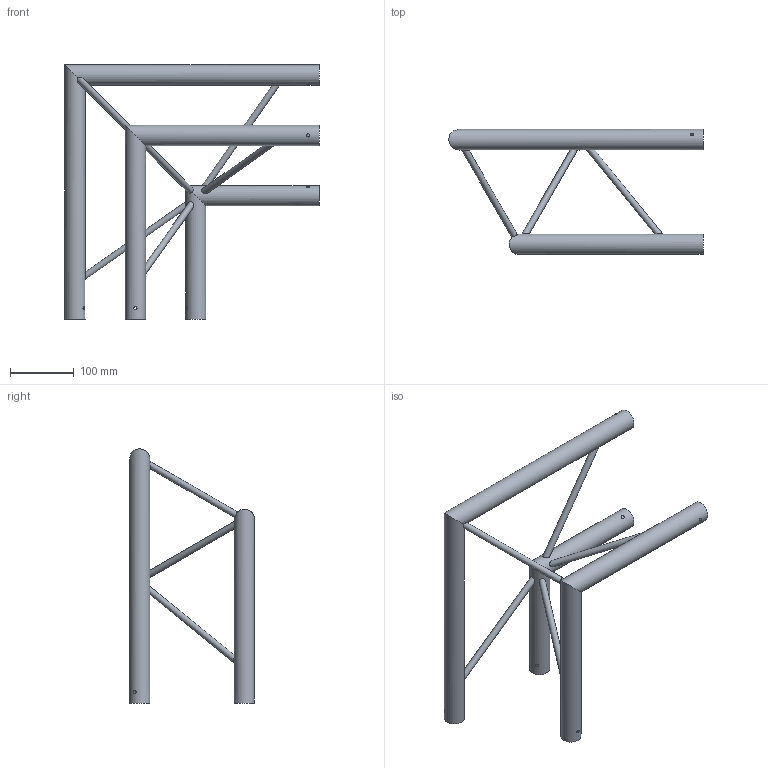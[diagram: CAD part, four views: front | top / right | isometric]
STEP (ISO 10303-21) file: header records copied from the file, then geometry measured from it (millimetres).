
FILE_DESCRIPTION(/* description */ (''),/* implementation_level */ '2;1');
FILE_NAME(/* name */ 'M:\Symbolen_NIEUW\STP\Corners\E20D\E20D-C003_160108511.stp',/* time_stamp */ '2017-11-16T14:28:47+01:00',/* author */ ('Kees'),/* organization */ (''),/* preprocessor_version */ 'ST-DEVELOPER v16.13',/* originating_system */ 'Autodesk Inventor 2018',/* authorisation */ '');
FILE_SCHEMA (('AUTOMOTIVE_DESIGN { 1 0 10303 214 3 1 1 }'));
Length unit declared in the file: millimetre
Products named in the file (1): 160108511
Bounding box: 400 x 196.54 x 400 mm (x, y, z)
Volume: 1480876.3 mm3; surface area: 218204.4 mm2
Topology: 6 solids, 6 shells, 54 faces, 122 edges, 83 vertices
Faces by surface type: cylinder 28, plane 26
Full cylindrical faces by diameter (mm): 5 x6, 10 x6, 32 x6
Entity records: 2019 total; most frequent: CARTESIAN_POINT 692, DIRECTION 229, ORIENTED_EDGE 224, EDGE_CURVE 112, VERTEX_POINT 109, EDGE_LOOP 99, AXIS2_PLACEMENT_3D 97, FACE_BOUND 55
